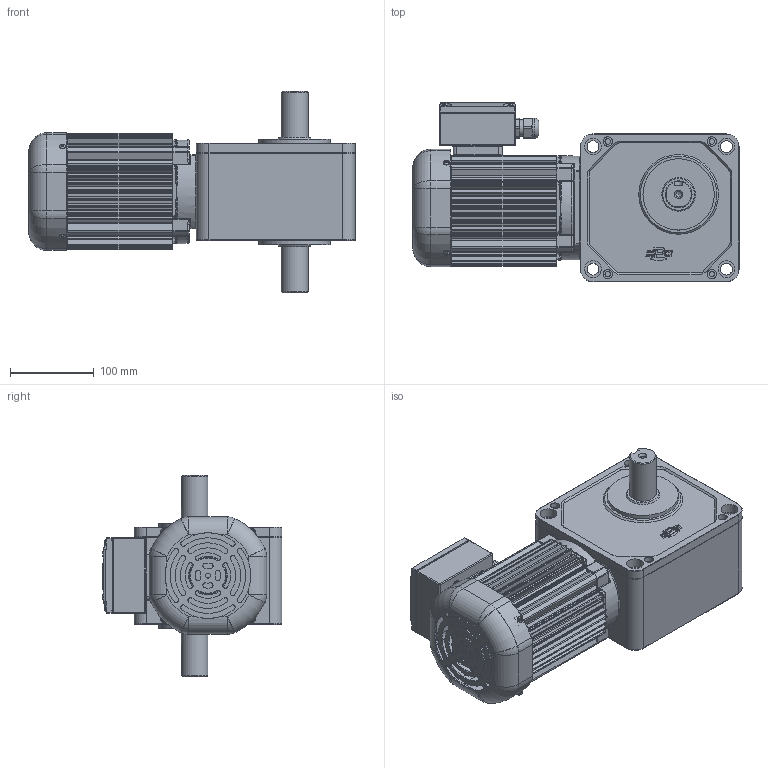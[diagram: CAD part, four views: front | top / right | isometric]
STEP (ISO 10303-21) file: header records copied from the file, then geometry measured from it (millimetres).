
FILE_DESCRIPTION(/* description */ (''),/* implementation_level */ '2;1');
FILE_NAME(/* name */ 'Z:\동력 3D 파일\PCS32B_0.4kW_3D.stp',/* time_stamp */ '2021-11-09T11:25:02+09:00',/* author */ ('jaebok'),/* organization */ (''),/* preprocessor_version */ 'ST-DEVELOPER v18.1',/* originating_system */ 'Autodesk Inventor 2022',/* authorisation */ '');
FILE_SCHEMA (('AUTOMOTIVE_DESIGN { 1 0 10303 214 3 1 1 }'));
Products named in the file (1): 부품53
Bounding box: 388.5 x 214 x 240 mm (x, y, z)
Volume: 2690655.6 mm3; surface area: 655165.2 mm2
Topology: 1 solids, 26 shells, 2011 faces, 5189 edges, 3267 vertices
Faces by surface type: plane 858, cylinder 743, torus 172, bspline 106, cone 100, sphere 32
Full cylindrical faces by diameter (mm): 3.242 x5, 3.25 x1, 3.5 x4, 3.6 x4, 4 x21, 5 x13, 5.386 x4, 6 x13, 6.5 x4, 6.647 x2, 7 x12, 8 x1, 10 x1, 11 x4, 12.5 x1, 14 x4, 15 x1, 18 x1, 20 x14, 21 x1, 23.6 x1, 25 x1, 30 x1, 31 x1, 32 x2, 40 x3, 44 x1, 54.5 x1, 72 x2, 78 x2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
Entity records: 67483 total; most frequent: CARTESIAN_POINT 15932, DIRECTION 10700, ORIENTED_EDGE 10258, EDGE_CURVE 5129, AXIS2_PLACEMENT_3D 4124, VERTEX_POINT 3267, LINE 2452, VECTOR 2452
